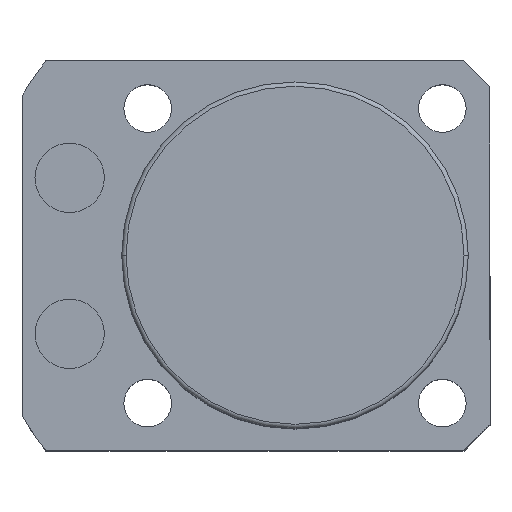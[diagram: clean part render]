
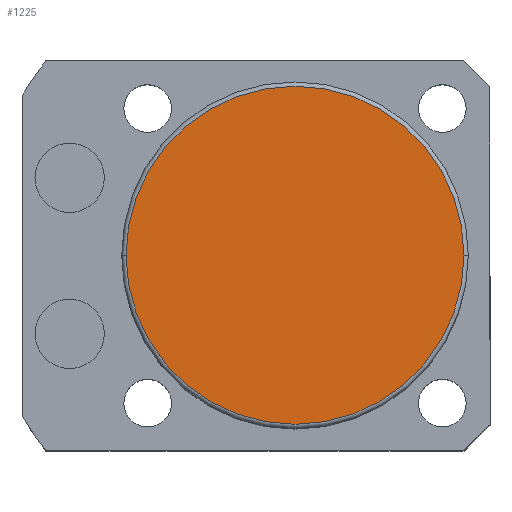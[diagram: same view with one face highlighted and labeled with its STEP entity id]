
A CAD part, top view. The second image highlights one B-rep face of the part: STEP entity #1225.
In plain terms, the highlighted planar face has unit normal (0, 0, 1).
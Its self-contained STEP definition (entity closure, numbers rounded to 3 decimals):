
#23 = DIRECTION ( 'NONE',  ( 0., 0., 1. ) ) ;
#33 = VERTEX_POINT ( 'NONE', #1366 ) ;
#54 = ORIENTED_EDGE ( 'NONE', *, *, #903, .T. ) ;
#335 = CIRCLE ( 'NONE', #1242, 19.5 ) ;
#384 = DIRECTION ( 'NONE',  ( 1., 0., 0. ) ) ;
#671 = CIRCLE ( 'NONE', #989, 19.5 ) ;
#786 = FACE_OUTER_BOUND ( 'NONE', #2073, .T. ) ;
#805 = VERTEX_POINT ( 'NONE', #1984 ) ;
#903 = EDGE_CURVE ( 'NONE', #33, #805, #671, .T. ) ;
#989 = AXIS2_PLACEMENT_3D ( 'NONE', #2644, #1811, #2464 ) ;
#1056 = CARTESIAN_POINT ( 'NONE',  ( 0., 0., 48.5 ) ) ;
#1225 = ADVANCED_FACE ( 'NONE', ( #786 ), #1408, .T. ) ;
#1242 = AXIS2_PLACEMENT_3D ( 'NONE', #1056, #23, #2342 ) ;
#1366 = CARTESIAN_POINT ( 'NONE',  ( -19.5, 0., 48.5 ) ) ;
#1408 = PLANE ( 'NONE',  #2037 ) ;
#1766 = EDGE_CURVE ( 'NONE', #805, #33, #335, .T. ) ;
#1811 = DIRECTION ( 'NONE',  ( 0., 0., 1. ) ) ;
#1984 = CARTESIAN_POINT ( 'NONE',  ( 19.5, 0., 48.5 ) ) ;
#2037 = AXIS2_PLACEMENT_3D ( 'NONE', #2704, #2469, #384 ) ;
#2073 = EDGE_LOOP ( 'NONE', ( #2405, #54 ) ) ;
#2342 = DIRECTION ( 'NONE',  ( 1., 0., 0. ) ) ;
#2405 = ORIENTED_EDGE ( 'NONE', *, *, #1766, .T. ) ;
#2464 = DIRECTION ( 'NONE',  ( 1., 0., 0. ) ) ;
#2469 = DIRECTION ( 'NONE',  ( 0., 0., 1. ) ) ;
#2644 = CARTESIAN_POINT ( 'NONE',  ( 0., 0., 48.5 ) ) ;
#2704 = CARTESIAN_POINT ( 'NONE',  ( 0., 0., 48.5 ) ) ;
